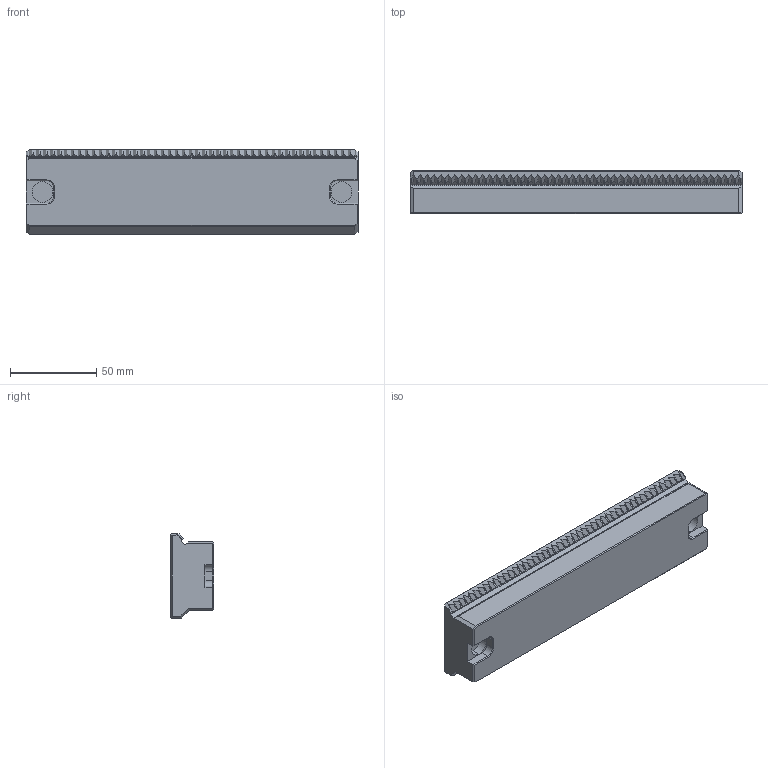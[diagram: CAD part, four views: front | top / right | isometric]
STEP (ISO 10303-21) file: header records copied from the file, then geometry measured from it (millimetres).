
FILE_DESCRIPTION (( 'STEP AP214' ), '1' );
FILE_NAME ('73190.STEP', '2023-12-18T08:01:14', ( '' ), ( '' ), 'SwSTEP 2.0', 'SolidWorks 2021', '' );
FILE_SCHEMA (( 'AUTOMOTIVE_DESIGN' ));
Length unit declared in the file: millimetre
Products named in the file (1): 73190
Bounding box: 192 x 25 x 48.6 mm (x, y, z)
Volume: 198468.6 mm3; surface area: 30382.6 mm2
Topology: 1 solids, 1 shells, 291 faces, 819 edges, 524 vertices
Faces by surface type: plane 245, cylinder 26, cone 20
Entity records: 12316 total; most frequent: CARTESIAN_POINT 1907, ORIENTED_EDGE 1606, DIRECTION 1347, EDGE_CURVE 803, VECTOR 651, LINE 651, VERTEX_POINT 524, AXIS2_PLACEMENT_3D 348
